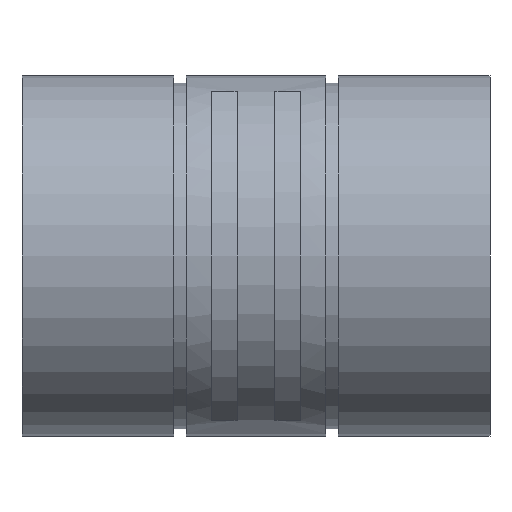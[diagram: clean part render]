
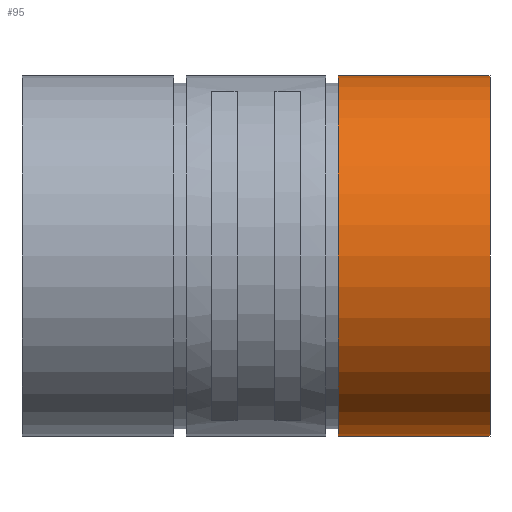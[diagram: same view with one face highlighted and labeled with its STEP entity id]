
A CAD part, front view. The second image highlights one B-rep face of the part: STEP entity #95.
In plain terms, the highlighted cylindrical face has radius 14.25 mm (diameter 28.5 mm), a full revolution.
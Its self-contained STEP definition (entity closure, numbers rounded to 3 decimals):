
#95 = ADVANCED_FACE( '', ( #160, #161 ), #162, .T. );
#160 = FACE_OUTER_BOUND( '', #252, .T. );
#161 = FACE_OUTER_BOUND( '', #253, .T. );
#162 = CYLINDRICAL_SURFACE( '', #254, 14.25 );
#252 = EDGE_LOOP( '', ( #444 ) );
#253 = EDGE_LOOP( '', ( #445 ) );
#254 = AXIS2_PLACEMENT_3D( '', #446, #447, #448 );
#444 = ORIENTED_EDGE( '', *, *, #537, .F. );
#445 = ORIENTED_EDGE( '', *, *, #580, .T. );
#446 = CARTESIAN_POINT( '', ( -60., 0., 0. ) );
#447 = DIRECTION( '', ( 1., 0., 0. ) );
#448 = DIRECTION( '', ( 0., 0., 1. ) );
#537 = EDGE_CURVE( '', #606, #606, #607, .T. );
#580 = EDGE_CURVE( '', #679, #679, #680, .T. );
#606 = VERTEX_POINT( '', #720 );
#607 = CIRCLE( '', #721, 14.25 );
#679 = VERTEX_POINT( '', #820 );
#680 = CIRCLE( '', #821, 14.25 );
#720 = CARTESIAN_POINT( '', ( 6.5, 0., 14.25 ) );
#721 = AXIS2_PLACEMENT_3D( '', #863, #864, #865 );
#820 = CARTESIAN_POINT( '', ( 18.5, 0., 14.25 ) );
#821 = AXIS2_PLACEMENT_3D( '', #938, #939, #940 );
#863 = CARTESIAN_POINT( '', ( 6.5, 0., 0. ) );
#864 = DIRECTION( '', ( -1., 0., 0. ) );
#865 = DIRECTION( '', ( 0., 0., 1. ) );
#938 = CARTESIAN_POINT( '', ( 18.5, 0., 0. ) );
#939 = DIRECTION( '', ( -1., 0., 0. ) );
#940 = DIRECTION( '', ( 0., 0., 1. ) );
